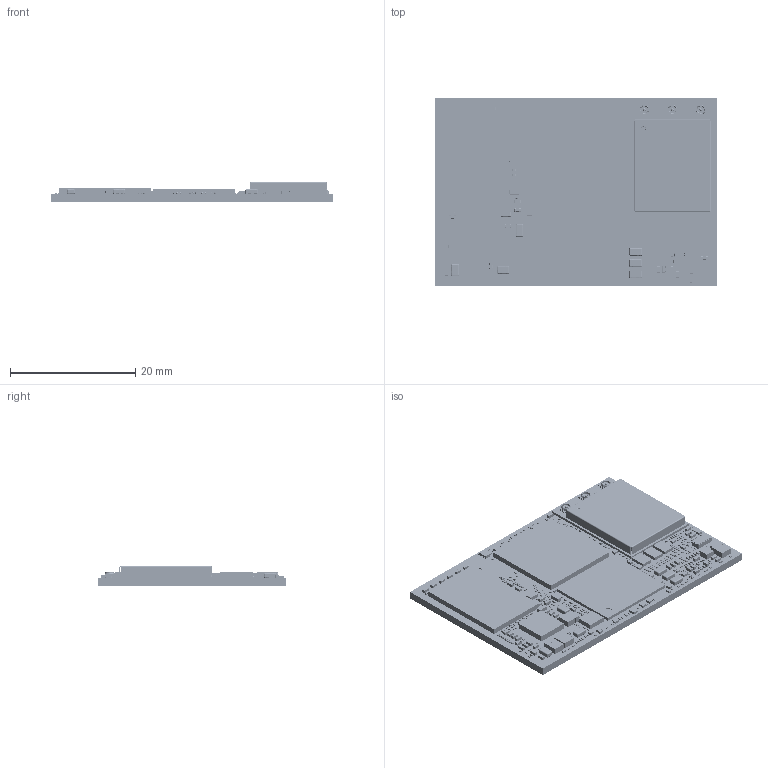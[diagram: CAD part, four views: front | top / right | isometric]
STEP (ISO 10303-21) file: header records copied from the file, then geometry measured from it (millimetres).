
FILE_DESCRIPTION(('Open CASCADE Model'),'2;1');
FILE_NAME('Open CASCADE Shape Model','2025-12-05T11:01:02',('Author'),( 'Open CASCADE'),'Open CASCADE STEP processor 7.5','Open CASCADE 7.5' ,'Unknown');
FILE_SCHEMA(('AUTOMOTIVE_DESIGN { 1 0 10303 214 1 1 1 1 }'));
Length unit declared in the file: millimetre
Products named in the file (611): PCB; Board; Open CASCADE STEP translator 7.5 1.1.1; R167; 01005_PAN; D1; 6324999952; R166; R125; Q12; CST3C_z90; Component1; Component2; Component3; Component4; R165; R164; R163; R162; R161; R160; R152; R151; R148; R146; C191; CAP0201 (0603); C190; R143; R138; R132; R131; R130; R129; R127; R126; R118; U14; SN74LVC1G08DPWR; R117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
Assembly tree (1004 placements, depth 5):
  PCB
    Board
      Open CASCADE STEP translator 7.5 1.1.1
    R167
      01005_PAN
    D1
      6324999952
    R166
      01005_PAN
    R125
      01005_PAN
    Q12
      CST3C_z90
        Component1
        Component2
        Component3
        Component4
    R165
      01005_PAN
    R164
      01005_PAN
    R163
      01005_PAN
    R162
      01005_PAN
    R161
      01005_PAN
    R160
      01005_PAN
    R152
      01005_PAN
    R151
      01005_PAN
    R148
      01005_PAN
    R146
      01005_PAN
    C191
      CAP0201 (0603)
    C190
      CAP0201 (0603)
    R143
      01005_PAN
    R138
      01005_PAN
    R132
      01005_PAN
    R131
      01005_PAN
    R130
      01005_PAN
    R129
      01005_PAN
    R127
      01005_PAN
    R126
      01005_PAN
    R118
      01005_PAN
    U14
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Bounding box: 45 x 30 x 3.2 mm (x, y, z)
Volume: 2184.4 mm3; surface area: 6285.6 mm2
Topology: 1631 solids, 2258 shells, 18821 faces, 42311 edges, 26340 vertices
Faces by surface type: plane 15300, cylinder 2252, sphere 725, bspline 512, cone 30, torus 2
Full cylindrical faces by diameter (mm): 0.032 x1, 0.099 x1, 0.255 x1, 1.438 x1
Entity records: 185036 total; most frequent: CARTESIAN_POINT 36236, DIRECTION 26362, ORIENTED_EDGE 24815, EDGE_CURVE 12700, LINE 9936, VECTOR 9936, VERTEX_POINT 8526, AXIS2_PLACEMENT_3D 8213
